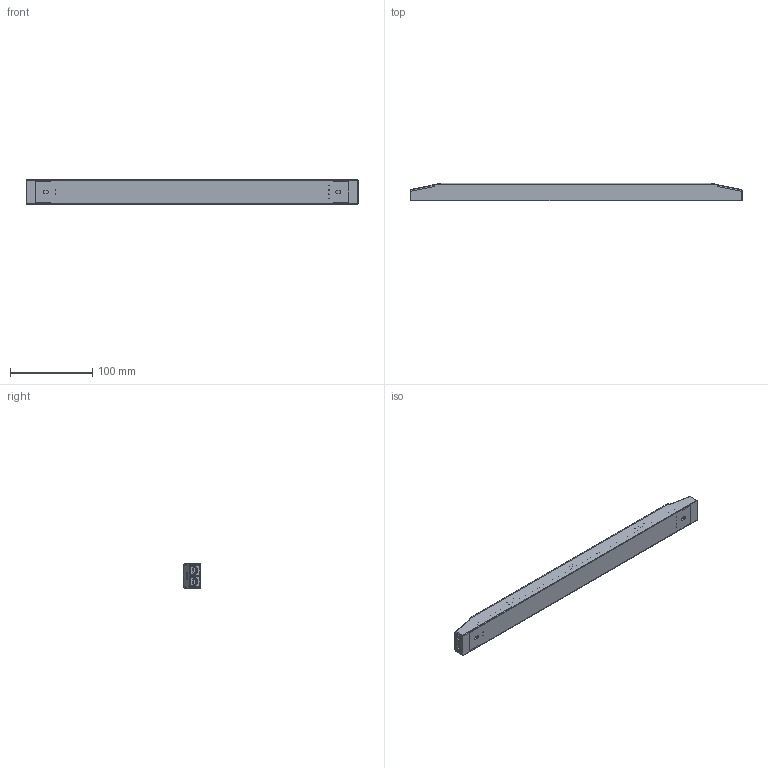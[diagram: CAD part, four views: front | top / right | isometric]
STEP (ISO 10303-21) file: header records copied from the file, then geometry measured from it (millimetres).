
FILE_DESCRIPTION((''),'2;1');
FILE_NAME('3D-160W_ASM','2020-04-29T',('Arbiter.he'),(''),'PRO/ENGINEER BY PARAMETRIC TECHNOLOGY CORPORATION, 2010280','PRO/ENGINEER BY PARAMETRIC TECHNOLOGY CORPORATION, 2010280','');
FILE_SCHEMA(('CONFIG_CONTROL_DESIGN'));
Length unit declared in the file: millimetre
Products named in the file (8): TOP-160W; DOWN-160W; COVER_; CM-100-2P; PRT0052; PRT0053; 4P_ASM; 3D-160W_ASM
Assembly tree (8 placements, depth 3):
  3D-160W_ASM
    TOP-160W
    DOWN-160W
    COVER_  x2
    CM-100-2P
    4P_ASM
      PRT0052
      PRT0053
Bounding box: 404.06 x 21.53 x 30 mm (x, y, z)
Volume: 66865.1 mm3; surface area: 101074.6 mm2
Topology: 7 solids, 7 shells, 1491 faces, 4052 edges, 2600 vertices
Faces by surface type: plane 975, cylinder 420, torus 52, cone 20, bspline 16, sphere 8
Entity records: 39399 total; most frequent: CARTESIAN_POINT 7989, ORIENTED_EDGE 6656, DIRECTION 6318, EDGE_CURVE 3328, VECTOR 2562, LINE 2562, VERTEX_POINT 2136, AXIS2_PLACEMENT_3D 1878
